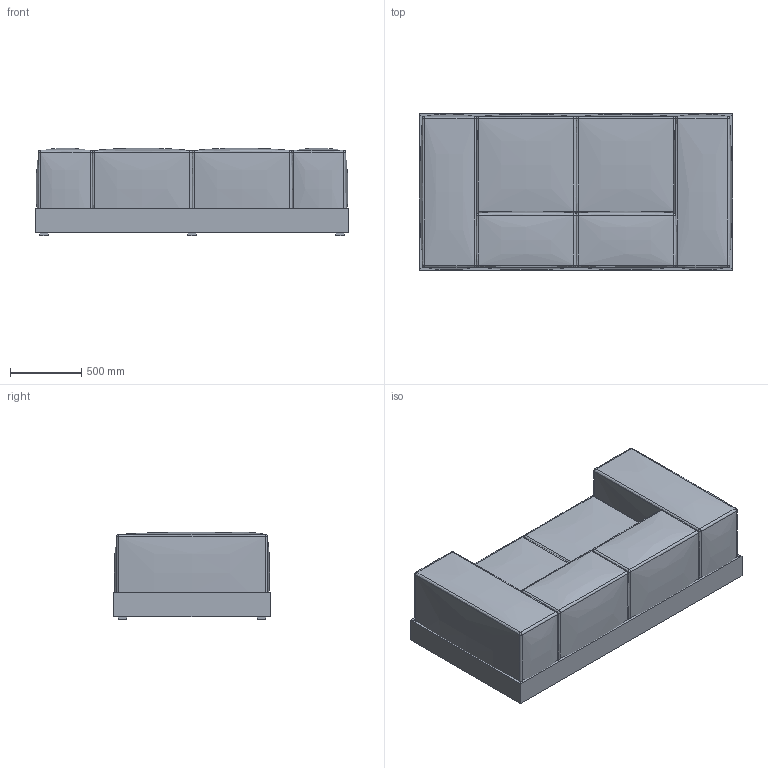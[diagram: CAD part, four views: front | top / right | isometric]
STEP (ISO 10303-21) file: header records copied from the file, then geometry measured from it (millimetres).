
FILE_DESCRIPTION(/* description */ (''),/* implementation_level */ '2;1');
FILE_NAME(/* name */ 'Polp1 220 brl.step',/* time_stamp */ '2024-01-07T10:01:56+01:00',/* author */ (''),/* organization */ (''),/* preprocessor_version */ 'ST-DEVELOPER v20',/* originating_system */ 'Autodesk Translation Framework v12.14.0.127',/* authorisation */ '');
FILE_SCHEMA (('AUTOMOTIVE_DESIGN { 1 0 10303 214 3 1 1 }'));
Length unit declared in the file: millimetre
Products named in the file (1): Polp1 220 brl
Bounding box: 2200 x 1100 x 615 mm (x, y, z)
Volume: 1161260395.3 mm3; surface area: 19235415.6 mm2
Topology: 22 solids, 22 shells, 252 faces, 480 edges, 272 vertices
Faces by surface type: plane 106, bspline 92, sphere 48, cylinder 6
Entity records: 17214 total; most frequent: CARTESIAN_POINT 12591, ORIENTED_EDGE 960, DIRECTION 814, EDGE_CURVE 480, AXIS2_PLACEMENT_3D 305, VERTEX_POINT 272, FACE_OUTER_BOUND 252, EDGE_LOOP 252
